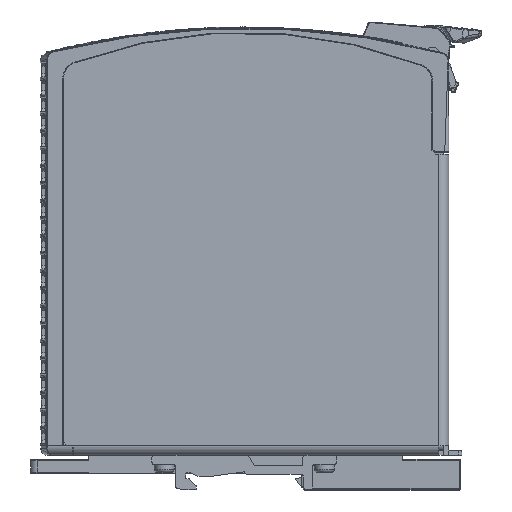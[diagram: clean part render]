
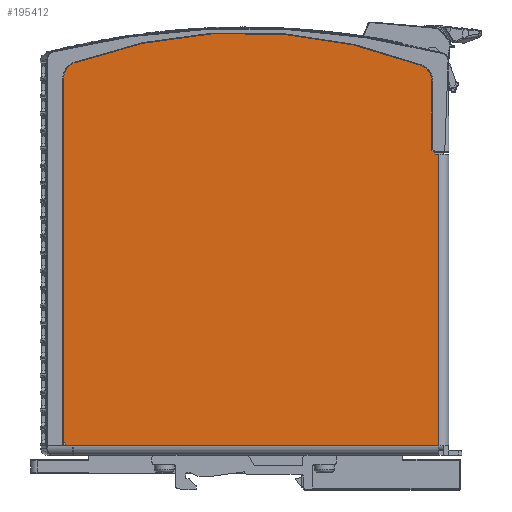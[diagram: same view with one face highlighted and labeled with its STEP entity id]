
A CAD part, left-side view. The second image highlights one B-rep face of the part: STEP entity #195412.
In plain terms, the highlighted planar face has unit normal (-1, 0, 0).
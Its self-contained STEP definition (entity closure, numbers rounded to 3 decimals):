
#9035 = DIRECTION ( 'NONE',  ( 0., 0., -1. ) ) ;
#11124 = CARTESIAN_POINT ( 'NONE',  ( -39.5, 54.9, 4.1 ) ) ;
#14816 = CARTESIAN_POINT ( 'NONE',  ( -39.5, 54.9, 114.396 ) ) ;
#15998 = FACE_OUTER_BOUND ( 'NONE', #152146, .T. ) ;
#16663 = ORIENTED_EDGE ( 'NONE', *, *, #140264, .T. ) ;
#23961 = AXIS2_PLACEMENT_3D ( 'NONE', #52015, #213117, #96073 ) ;
#25308 = VECTOR ( 'NONE', #50972, 1000. ) ;
#25697 = CARTESIAN_POINT ( 'NONE',  ( -39.5, -59., 3. ) ) ;
#30822 = VERTEX_POINT ( 'NONE', #248993 ) ;
#32547 = LINE ( 'NONE', #55847, #44628 ) ;
#33462 = ORIENTED_EDGE ( 'NONE', *, *, #140104, .T. ) ;
#36598 = DIRECTION ( 'NONE',  ( 0., 1., 0. ) ) ;
#44628 = VECTOR ( 'NONE', #36598, 1000. ) ;
#45900 = VECTOR ( 'NONE', #145175, 1000. ) ;
#48088 = VERTEX_POINT ( 'NONE', #114122 ) ;
#50972 = DIRECTION ( 'NONE',  ( 0., 1., 0. ) ) ;
#52015 = CARTESIAN_POINT ( 'NONE',  ( -39.5, 49.9, 114.396 ) ) ;
#55255 = AXIS2_PLACEMENT_3D ( 'NONE', #218285, #112434, #91787 ) ;
#55847 = CARTESIAN_POINT ( 'NONE',  ( -39.5, -58.05, 91.4 ) ) ;
#65439 = LINE ( 'NONE', #127329, #238358 ) ;
#65948 = CARTESIAN_POINT ( 'NONE',  ( -39.5, -59., 91.4 ) ) ;
#67730 = ORIENTED_EDGE ( 'NONE', *, *, #210913, .T. ) ;
#70839 = DIRECTION ( 'NONE',  ( -1., 0., 0. ) ) ;
#72985 = CARTESIAN_POINT ( 'NONE',  ( -39.5, 51.9, 3.1 ) ) ;
#74373 = VERTEX_POINT ( 'NONE', #225796 ) ;
#76178 = LINE ( 'NONE', #220638, #80440 ) ;
#76516 = LINE ( 'NONE', #160420, #45900 ) ;
#77847 = DIRECTION ( 'NONE',  ( 1., 0., 0. ) ) ;
#80440 = VECTOR ( 'NONE', #175328, 1000. ) ;
#84060 = DIRECTION ( 'NONE',  ( 0., -1., 0. ) ) ;
#85374 = VECTOR ( 'NONE', #262085, 1000. ) ;
#90651 = VERTEX_POINT ( 'NONE', #65948 ) ;
#91170 = CARTESIAN_POINT ( 'NONE',  ( -39.5, -58.05, 91.4 ) ) ;
#91787 = DIRECTION ( 'NONE',  ( 0., 0., -1. ) ) ;
#95042 = LINE ( 'NONE', #72985, #25308 ) ;
#96073 = DIRECTION ( 'NONE',  ( 0., 0., -1. ) ) ;
#97161 = PLANE ( 'NONE',  #251863 ) ;
#101573 = EDGE_CURVE ( 'NONE', #114021, #119594, #95042, .T. ) ;
#108101 = DIRECTION ( 'NONE',  ( 0., 0., 1. ) ) ;
#108461 = VERTEX_POINT ( 'NONE', #148632 ) ;
#112434 = DIRECTION ( 'NONE',  ( -1., 0., 0. ) ) ;
#114021 = VERTEX_POINT ( 'NONE', #220779 ) ;
#114122 = CARTESIAN_POINT ( 'NONE',  ( -39.5, 51.9, 3. ) ) ;
#114401 = VERTEX_POINT ( 'NONE', #11124 ) ;
#119594 = VERTEX_POINT ( 'NONE', #245368 ) ;
#127329 = CARTESIAN_POINT ( 'NONE',  ( -39.5, -56.85, 113.665 ) ) ;
#127393 = ORIENTED_EDGE ( 'NONE', *, *, #101573, .F. ) ;
#128549 = VECTOR ( 'NONE', #183890, 1000. ) ;
#128587 = VERTEX_POINT ( 'NONE', #208218 ) ;
#133948 = ORIENTED_EDGE ( 'NONE', *, *, #176837, .T. ) ;
#137398 = CIRCLE ( 'NONE', #260308, 150. ) ;
#140104 = EDGE_CURVE ( 'NONE', #203373, #30822, #65439, .T. ) ;
#140264 = EDGE_CURVE ( 'NONE', #128587, #74373, #137398, .T. ) ;
#145175 = DIRECTION ( 'NONE',  ( 0., 0., 1. ) ) ;
#145897 = ORIENTED_EDGE ( 'NONE', *, *, #146010, .F. ) ;
#146010 = EDGE_CURVE ( 'NONE', #48088, #114021, #76516, .T. ) ;
#146794 = CIRCLE ( 'NONE', #23961, 5. ) ;
#147581 = ORIENTED_EDGE ( 'NONE', *, *, #213012, .T. ) ;
#148632 = CARTESIAN_POINT ( 'NONE',  ( -39.5, 54.9, 114.396 ) ) ;
#151431 = CARTESIAN_POINT ( 'NONE',  ( -39.5, -56.85, 92.6 ) ) ;
#151493 = VERTEX_POINT ( 'NONE', #91170 ) ;
#152146 = EDGE_LOOP ( 'NONE', ( #67730, #133948, #195426, #33462, #147581, #16663, #192858, #159261, #240408, #127393, #145897, #257161 ) ) ;
#159021 = EDGE_CURVE ( 'NONE', #74373, #108461, #146794, .T. ) ;
#159261 = ORIENTED_EDGE ( 'NONE', *, *, #257929, .T. ) ;
#160420 = CARTESIAN_POINT ( 'NONE',  ( -39.5, 51.9, 3.1 ) ) ;
#168766 = LINE ( 'NONE', #251251, #190713 ) ;
#170646 = LINE ( 'NONE', #257212, #222481 ) ;
#170834 = VERTEX_POINT ( 'NONE', #220193 ) ;
#173920 = CIRCLE ( 'NONE', #55255, 5. ) ;
#175328 = DIRECTION ( 'NONE',  ( 0., -0.707, -0.707 ) ) ;
#176837 = EDGE_CURVE ( 'NONE', #90651, #151493, #32547, .T. ) ;
#179434 = CARTESIAN_POINT ( 'NONE',  ( -39.5, 0., -21.748 ) ) ;
#182379 = DIRECTION ( 'NONE',  ( 0., 0., -1. ) ) ;
#183514 = EDGE_CURVE ( 'NONE', #151493, #203373, #168766, .T. ) ;
#183890 = DIRECTION ( 'NONE',  ( 0., 0., -1. ) ) ;
#185332 = DIRECTION ( 'NONE',  ( 0., 0.707, 0.707 ) ) ;
#190713 = VECTOR ( 'NONE', #185332, 1000. ) ;
#192858 = ORIENTED_EDGE ( 'NONE', *, *, #159021, .T. ) ;
#195412 = ADVANCED_FACE ( 'NONE', ( #15998 ), #97161, .F. ) ;
#195426 = ORIENTED_EDGE ( 'NONE', *, *, #183514, .T. ) ;
#200400 = EDGE_CURVE ( 'NONE', #48088, #170834, #170646, .T. ) ;
#203373 = VERTEX_POINT ( 'NONE', #151431 ) ;
#208218 = CARTESIAN_POINT ( 'NONE',  ( -39.5, -53.638, 118.334 ) ) ;
#210913 = EDGE_CURVE ( 'NONE', #170834, #90651, #256680, .T. ) ;
#213012 = EDGE_CURVE ( 'NONE', #30822, #128587, #173920, .T. ) ;
#213117 = DIRECTION ( 'NONE',  ( -1., 0., 0. ) ) ;
#218285 = CARTESIAN_POINT ( 'NONE',  ( -39.5, -51.85, 113.665 ) ) ;
#220193 = CARTESIAN_POINT ( 'NONE',  ( -39.5, -59., 3. ) ) ;
#220638 = CARTESIAN_POINT ( 'NONE',  ( -39.5, 54.9, 4.1 ) ) ;
#220779 = CARTESIAN_POINT ( 'NONE',  ( -39.5, 51.9, 3.1 ) ) ;
#222481 = VECTOR ( 'NONE', #84060, 1000. ) ;
#225796 = CARTESIAN_POINT ( 'NONE',  ( -39.5, 51.621, 119.09 ) ) ;
#238358 = VECTOR ( 'NONE', #108101, 1000. ) ;
#240408 = ORIENTED_EDGE ( 'NONE', *, *, #260320, .T. ) ;
#244388 = LINE ( 'NONE', #14816, #128549 ) ;
#245368 = CARTESIAN_POINT ( 'NONE',  ( -39.5, 53.9, 3.1 ) ) ;
#248993 = CARTESIAN_POINT ( 'NONE',  ( -39.5, -56.85, 113.665 ) ) ;
#249621 = CARTESIAN_POINT ( 'NONE',  ( -39.5, 58.4, 0. ) ) ;
#251251 = CARTESIAN_POINT ( 'NONE',  ( -39.5, -58.05, 91.4 ) ) ;
#251863 = AXIS2_PLACEMENT_3D ( 'NONE', #249621, #77847, #182379 ) ;
#256680 = LINE ( 'NONE', #25697, #85374 ) ;
#257161 = ORIENTED_EDGE ( 'NONE', *, *, #200400, .T. ) ;
#257212 = CARTESIAN_POINT ( 'NONE',  ( -39.5, 58.4, 3. ) ) ;
#257929 = EDGE_CURVE ( 'NONE', #108461, #114401, #244388, .T. ) ;
#260308 = AXIS2_PLACEMENT_3D ( 'NONE', #179434, #70839, #9035 ) ;
#260320 = EDGE_CURVE ( 'NONE', #114401, #119594, #76178, .T. ) ;
#262085 = DIRECTION ( 'NONE',  ( 0., 0., 1. ) ) ;
